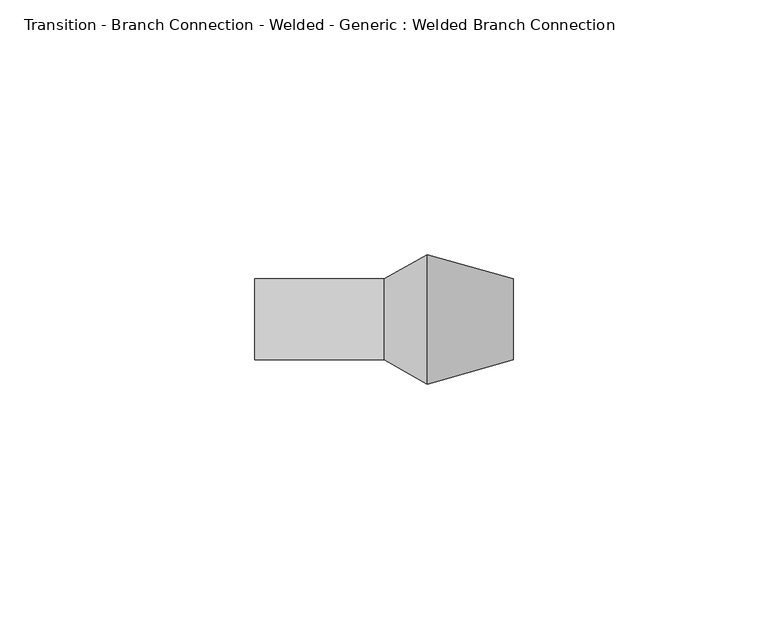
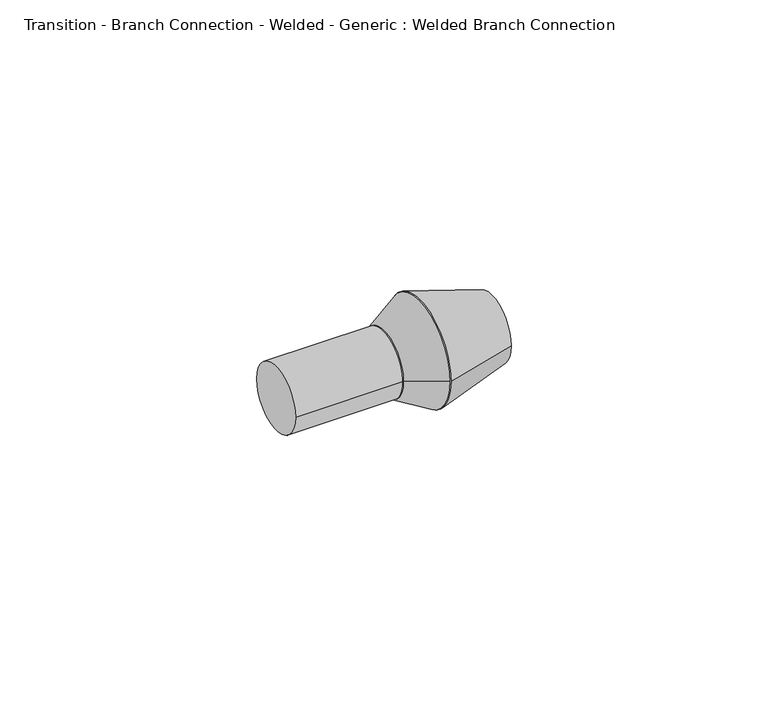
"""IFC4 building model written with IfcOpenShell, lengths in millimetres: pipe fitting geometry, Transition - Branch Connection - Welded - Generic : Welded Branch Connection."""

from ifc_helpers import new_model, si_unit, point, frame, origin, origin_2d, place, context, project, spatial, polyline, circle_curve, trimmed, segment, composite_curve, outline, extrude, source, transform, mapped, element, save
from ifc_brep_helpers import plane_surface, revolved_surface, advanced_brep


def transition_branch_connection_welded_generic_welded_branch_74e83077(model_context):
    return source(origin(), model_context, "Body", "SolidModel", [
        advanced_brep(
        [(8.4666667, -12.7, 0.0), (8.4666667, 12.7, 0.0), (25.4, -7.9375, 0.0), (25.4, 7.9375, 0.0)],
        [
            (0, 1, circle_curve(frame((8.4666667, 0.0, 0.0), z_axis=(-1.0, 0.0, 0.0), x_axis=(0.0, -1.0, 0.0)), 12.7)),
            (1, 0, circle_curve(frame((8.4666667, 0.0, 0.0), z_axis=(-1.0, 0.0, 0.0), x_axis=(0.0, 1.0, 0.0)), 12.7)),
            (2, 3, circle_curve(frame((25.4, 0.0, 0.0), z_axis=(1.0, 0.0, 0.0), x_axis=(0.0, 1.0, 0.0)), 7.9375)),
            (3, 2, circle_curve(frame((25.4, 0.0, 0.0), z_axis=(1.0, 0.0, 0.0), x_axis=(0.0, -1.0, 0.0)), 7.9375)),
            (2, 0),
            (1, 3),
        ],
        [
            plane_surface(frame((8.4666667, 0.0, 0.0), z_axis=(-1.0, 0.0, 0.0), x_axis=(0.0, 0.0, -1.0))),
            plane_surface(frame((25.4, 0.0, 0.0), z_axis=(1.0, 0.0, 0.0), x_axis=(0.0, 0.0, -1.0))),
            revolved_surface(polyline([(25.4, -7.937500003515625, 0.0), (8.466666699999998, -12.7, 0.0)]), (53.6222222, 0.0, 0.0), (-1.0, 0.0, 0.0)),
            revolved_surface(polyline([(25.4, 7.937500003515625, 0.0), (8.466666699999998, 12.7, 0.0)]), (53.6222222, 0.0, 0.0), (-1.0, 0.0, 0.0)),
        ],
        [
            (0, [[1, 2]]),
            (1, [[3, 4]]),
            (2, [[-3, 5, -2, 6]]),
            (3, [[-4, -6, -1, -5]]),
        ],
    ),
        advanced_brep(
        [(8.4666667, -12.7, 0.0), (8.4666667, 12.7, 0.0), (0.0, -7.9375, 0.0), (0.0, 7.9375, 0.0)],
        [
            (0, 1, circle_curve(frame((8.4666667, 0.0, 0.0), z_axis=(1.0, 0.0, 0.0), x_axis=(0.0, -1.0, 0.0)), 12.7)),
            (1, 0, circle_curve(frame((8.4666667, 0.0, 0.0), z_axis=(1.0, 0.0, 0.0), x_axis=(0.0, 1.0, 0.0)), 12.7)),
            (2, 3, circle_curve(frame((0.0, 0.0, 0.0), z_axis=(-1.0, 0.0, 0.0), x_axis=(0.0, 1.0, 0.0)), 7.9375)),
            (3, 2, circle_curve(frame((0.0, 0.0, 0.0), z_axis=(-1.0, 0.0, 0.0), x_axis=(0.0, -1.0, 0.0)), 7.9375)),
            (3, 1),
            (0, 2),
        ],
        [
            plane_surface(frame((8.4666667, 0.0, 0.0), z_axis=(1.0, 0.0, 0.0), x_axis=(0.0, 0.0, -1.0))),
            plane_surface(frame((0.0, 0.0, 0.0), z_axis=(-1.0, 0.0, 0.0), x_axis=(0.0, 0.0, -1.0))),
            revolved_surface(polyline([(-1.7763568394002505e-15, 7.9374999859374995, 0.0), (8.4666667, 12.7, 0.0)]), (-14.1111111, 0.0, 0.0), (1.0, 0.0, 0.0)),
            revolved_surface(polyline([(-1.7763568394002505e-15, -7.9374999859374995, 0.0), (8.4666667, -12.7, 0.0)]), (-14.1111111, 0.0, 0.0), (1.0, 0.0, 0.0)),
        ],
        [
            (0, [[1, 2]]),
            (1, [[3, 4]]),
            (2, [[-4, 5, -1, 6]]),
            (3, [[-3, -6, -2, -5]]),
        ],
    ),
        extrude(outline(composite_curve([segment(trimmed(circle_curve(origin_2d(), 7.9375), [point((-7.9375, 0.0))], [point((7.9375, 0.0))], False, "CARTESIAN"), True, "CONTINUOUS"), segment(trimmed(circle_curve(origin_2d(), 7.9375), [point((7.9375, 0.0))], [point((-7.9375, 0.0))], False, "CARTESIAN"), True, "CONTINUOUS")], self_intersect=False)), frame((-25.4, 0.0, 0.0), z_axis=(1.0, 0.0, 0.0), x_axis=(0.0, 1.0, 0.0)), (0.0, 0.0, 1.0), 25.4),
    ])


if __name__ == "__main__":
    model = new_model("IFC4")
    model_context = context("Model", 3, world=origin())
    ifc_project = project(units=[si_unit("LENGTHUNIT", "METRE", prefix="MILLI")], contexts=[model_context])
    site = spatial("IfcSite", under=ifc_project)
    building = spatial("IfcBuilding", under=site)
    placement = place(None, origin())
    transition_branch_connection_welded_generic_welded_branch_shape = transition_branch_connection_welded_generic_welded_branch_74e83077(model_context)
    element("IfcPipeFitting", 1, ObjectType="Transition - Branch Connection - Welded - Generic : Welded Branch Connection", at=placement, inside=building, context=model_context, shape_type="MappedRepresentation", body=[
        mapped(transition_branch_connection_welded_generic_welded_branch_shape, transform((0.0, 0.0, 0.0), x_axis=(1.0, 0.0, 0.0), y_axis=(0.0, 1.0, 0.0), z_axis=(0.0, 0.0, 1.0))),
    ])
    save(model, "model.ifc")
